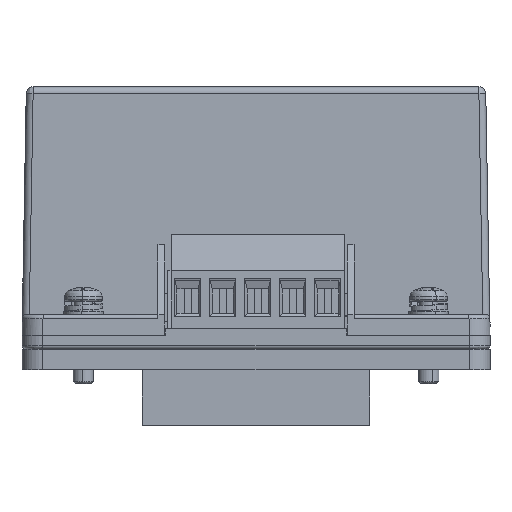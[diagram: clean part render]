
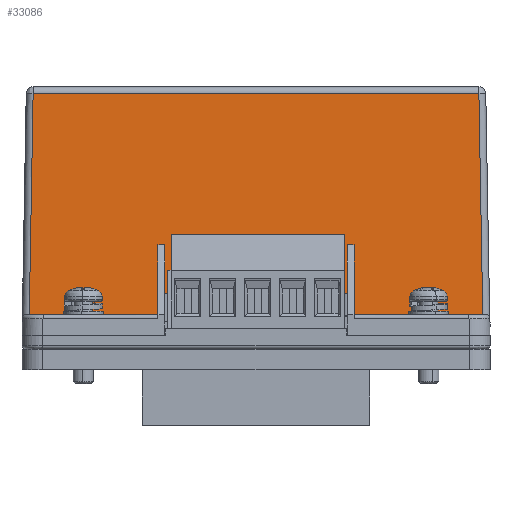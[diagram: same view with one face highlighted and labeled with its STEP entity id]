
A CAD part, front view. The second image highlights one B-rep face of the part: STEP entity #33086.
In plain terms, the highlighted planar face has unit normal (0, -1, 0.018).
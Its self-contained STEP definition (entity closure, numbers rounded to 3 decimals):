
#396 = VECTOR ( 'NONE', #39652, 1000. ) ;
#707 = CARTESIAN_POINT ( 'NONE',  ( -13.7, -45.823, 13.124 ) ) ;
#1129 = DIRECTION ( 'NONE',  ( -0.017, 0.017, 1. ) ) ;
#1221 = ORIENTED_EDGE ( 'NONE', *, *, #29540, .T. ) ;
#1257 = DIRECTION ( 'NONE',  ( -1., 0., 0. ) ) ;
#1483 = DIRECTION ( 'NONE',  ( 1., 0., 0. ) ) ;
#1525 = CARTESIAN_POINT ( 'NONE',  ( 14.2, -46., 3. ) ) ;
#3078 = CARTESIAN_POINT ( 'NONE',  ( 32.848, -46., 3. ) ) ;
#3748 = FACE_OUTER_BOUND ( 'NONE', #8145, .T. ) ;
#3992 = EDGE_CURVE ( 'NONE', #34253, #14325, #33354, .T. ) ;
#4562 = DIRECTION ( 'NONE',  ( 0., -0.017, -1. ) ) ;
#5467 = ORIENTED_EDGE ( 'NONE', *, *, #8150, .T. ) ;
#5847 = VECTOR ( 'NONE', #17630, 1000. ) ;
#5898 = PLANE ( 'NONE',  #12395 ) ;
#5950 = LINE ( 'NONE', #7431, #19924 ) ;
#6749 = VECTOR ( 'NONE', #4562, 1000. ) ;
#7411 = VERTEX_POINT ( 'NONE', #14643 ) ;
#7431 = CARTESIAN_POINT ( 'NONE',  ( -13.2, -46., 3. ) ) ;
#8145 = EDGE_LOOP ( 'NONE', ( #34353, #18486, #23090, #27680, #38964, #24728, #1221, #11390, #18183, #12989, #31634, #5467 ) ) ;
#8150 = EDGE_CURVE ( 'NONE', #34515, #39289, #20474, .T. ) ;
#8157 = CARTESIAN_POINT ( 'NONE',  ( 13.2, -45.948, 6. ) ) ;
#8797 = VERTEX_POINT ( 'NONE', #27040 ) ;
#9361 = CARTESIAN_POINT ( 'NONE',  ( -13.2, -45.948, 6. ) ) ;
#9459 = VECTOR ( 'NONE', #1483, 1000. ) ;
#9684 = EDGE_CURVE ( 'NONE', #39289, #11089, #35810, .T. ) ;
#11089 = VERTEX_POINT ( 'NONE', #36895 ) ;
#11130 = VERTEX_POINT ( 'NONE', #37036 ) ;
#11281 = VERTEX_POINT ( 'NONE', #9361 ) ;
#11390 = ORIENTED_EDGE ( 'NONE', *, *, #23612, .T. ) ;
#11774 = VECTOR ( 'NONE', #1257, 1000. ) ;
#12305 = EDGE_CURVE ( 'NONE', #30190, #7411, #39645, .T. ) ;
#12395 = AXIS2_PLACEMENT_3D ( 'NONE', #31335, #34554, #15548 ) ;
#12989 = ORIENTED_EDGE ( 'NONE', *, *, #18452, .F. ) ;
#13751 = CARTESIAN_POINT ( 'NONE',  ( 13.2, -45.948, 6. ) ) ;
#14325 = VERTEX_POINT ( 'NONE', #34133 ) ;
#14643 = CARTESIAN_POINT ( 'NONE',  ( -32.848, -46., 3. ) ) ;
#15548 = DIRECTION ( 'NONE',  ( 0., -0.017, -1. ) ) ;
#15976 = LINE ( 'NONE', #28124, #40277 ) ;
#16419 = CARTESIAN_POINT ( 'NONE',  ( 14.2, -46., 3. ) ) ;
#16503 = LINE ( 'NONE', #23426, #24942 ) ;
#17486 = CARTESIAN_POINT ( 'NONE',  ( 33.9, -46., 3. ) ) ;
#17630 = DIRECTION ( 'NONE',  ( -0.017, -0.017, -1. ) ) ;
#17970 = VECTOR ( 'NONE', #1129, 1000. ) ;
#18183 = ORIENTED_EDGE ( 'NONE', *, *, #29302, .T. ) ;
#18452 = EDGE_CURVE ( 'NONE', #8797, #18916, #15976, .T. ) ;
#18486 = ORIENTED_EDGE ( 'NONE', *, *, #32785, .T. ) ;
#18916 = VERTEX_POINT ( 'NONE', #23939 ) ;
#19924 = VECTOR ( 'NONE', #26481, 1000. ) ;
#20474 = LINE ( 'NONE', #24015, #28903 ) ;
#20641 = LINE ( 'NONE', #13751, #29066 ) ;
#20685 = CARTESIAN_POINT ( 'NONE',  ( 13.2, -46., 3. ) ) ;
#23090 = ORIENTED_EDGE ( 'NONE', *, *, #12305, .T. ) ;
#23388 = CARTESIAN_POINT ( 'NONE',  ( 32.848, -46., 3. ) ) ;
#23426 = CARTESIAN_POINT ( 'NONE',  ( -14.2, -46., 3. ) ) ;
#23612 = EDGE_CURVE ( 'NONE', #11281, #40439, #20641, .T. ) ;
#23939 = CARTESIAN_POINT ( 'NONE',  ( 13.2, -45.823, 13.124 ) ) ;
#24015 = CARTESIAN_POINT ( 'NONE',  ( 33.9, -46., 3. ) ) ;
#24656 = EDGE_CURVE ( 'NONE', #7411, #11130, #33870, .T. ) ;
#24728 = ORIENTED_EDGE ( 'NONE', *, *, #3992, .F. ) ;
#24940 = DIRECTION ( 'NONE',  ( -1., 0., 0. ) ) ;
#24942 = VECTOR ( 'NONE', #26607, 1000. ) ;
#26481 = DIRECTION ( 'NONE',  ( 0., -0.017, -1. ) ) ;
#26607 = DIRECTION ( 'NONE',  ( 0., 0.017, 1. ) ) ;
#27040 = CARTESIAN_POINT ( 'NONE',  ( 14.2, -45.823, 13.124 ) ) ;
#27680 = ORIENTED_EDGE ( 'NONE', *, *, #24656, .T. ) ;
#27708 = LINE ( 'NONE', #39250, #11774 ) ;
#28124 = CARTESIAN_POINT ( 'NONE',  ( 13.7, -45.823, 13.124 ) ) ;
#28903 = VECTOR ( 'NONE', #39256, 1000. ) ;
#29066 = VECTOR ( 'NONE', #32779, 1000. ) ;
#29302 = EDGE_CURVE ( 'NONE', #40439, #18916, #33231, .T. ) ;
#29310 = DIRECTION ( 'NONE',  ( -1., 0., 0. ) ) ;
#29540 = EDGE_CURVE ( 'NONE', #34253, #11281, #5950, .T. ) ;
#30190 = VERTEX_POINT ( 'NONE', #35347 ) ;
#30505 = CARTESIAN_POINT ( 'NONE',  ( -32.289, -45.441, 35.017 ) ) ;
#31145 = LINE ( 'NONE', #1525, #6749 ) ;
#31335 = CARTESIAN_POINT ( 'NONE',  ( 33.9, -46., 3. ) ) ;
#31634 = ORIENTED_EDGE ( 'NONE', *, *, #32837, .T. ) ;
#32779 = DIRECTION ( 'NONE',  ( 1., 0., 0. ) ) ;
#32785 = EDGE_CURVE ( 'NONE', #11089, #30190, #27708, .T. ) ;
#32837 = EDGE_CURVE ( 'NONE', #8797, #34515, #31145, .T. ) ;
#33086 = ADVANCED_FACE ( 'NONE', ( #3748 ), #5898, .T. ) ;
#33231 = LINE ( 'NONE', #20685, #396 ) ;
#33354 = LINE ( 'NONE', #707, #40731 ) ;
#33870 = LINE ( 'NONE', #17486, #9459 ) ;
#34133 = CARTESIAN_POINT ( 'NONE',  ( -14.2, -45.823, 13.124 ) ) ;
#34253 = VERTEX_POINT ( 'NONE', #34327 ) ;
#34327 = CARTESIAN_POINT ( 'NONE',  ( -13.2, -45.823, 13.124 ) ) ;
#34353 = ORIENTED_EDGE ( 'NONE', *, *, #9684, .T. ) ;
#34515 = VERTEX_POINT ( 'NONE', #16419 ) ;
#34554 = DIRECTION ( 'NONE',  ( 0., -1., 0.017 ) ) ;
#35347 = CARTESIAN_POINT ( 'NONE',  ( -32.289, -45.441, 35.017 ) ) ;
#35810 = LINE ( 'NONE', #23388, #17970 ) ;
#36881 = EDGE_CURVE ( 'NONE', #11130, #14325, #16503, .T. ) ;
#36895 = CARTESIAN_POINT ( 'NONE',  ( 32.289, -45.441, 35.017 ) ) ;
#37036 = CARTESIAN_POINT ( 'NONE',  ( -14.2, -46., 3. ) ) ;
#38964 = ORIENTED_EDGE ( 'NONE', *, *, #36881, .T. ) ;
#39250 = CARTESIAN_POINT ( 'NONE',  ( 33.9, -45.441, 35.017 ) ) ;
#39256 = DIRECTION ( 'NONE',  ( 1., 0., 0. ) ) ;
#39289 = VERTEX_POINT ( 'NONE', #3078 ) ;
#39645 = LINE ( 'NONE', #30505, #5847 ) ;
#39652 = DIRECTION ( 'NONE',  ( 0., 0.017, 1. ) ) ;
#40277 = VECTOR ( 'NONE', #24940, 1000. ) ;
#40439 = VERTEX_POINT ( 'NONE', #8157 ) ;
#40731 = VECTOR ( 'NONE', #29310, 1000. ) ;
